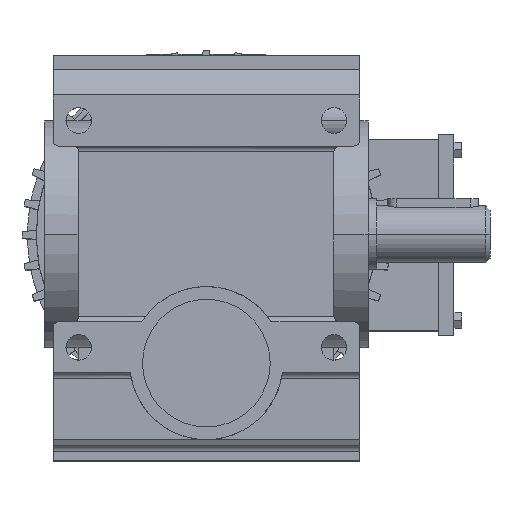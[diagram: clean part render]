
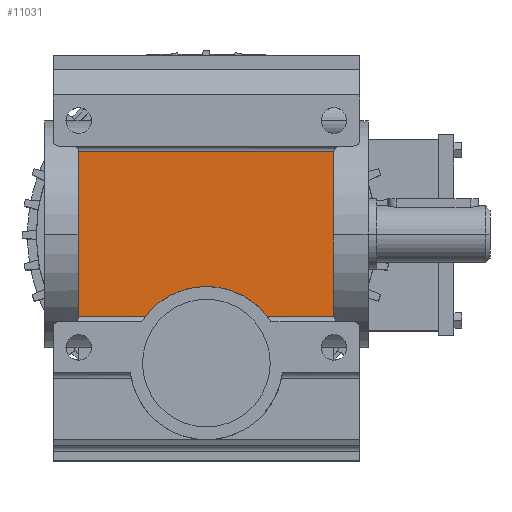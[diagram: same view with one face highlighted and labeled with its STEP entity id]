
A CAD part, top view. The second image highlights one B-rep face of the part: STEP entity #11031.
In plain terms, the highlighted planar face has unit normal (0, 0, 1).
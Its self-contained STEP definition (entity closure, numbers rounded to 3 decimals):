
#5587 = CYLINDRICAL_SURFACE('',#5588,27.);
#5588 = AXIS2_PLACEMENT_3D('',#5589,#5590,#5591);
#5589 = CARTESIAN_POINT('',(0.,-45.531,
    211.868));
#5590 = DIRECTION('',(0.,0.,-1.));
#5591 = DIRECTION('',(-1.,0.,0.));
#5976 = PLANE('',#5977);
#5977 = AXIS2_PLACEMENT_3D('',#5978,#5979,#5980);
#5978 = CARTESIAN_POINT('',(45.,29.,-3.));
#5979 = DIRECTION('',(1.,0.,0.));
#5980 = DIRECTION('',(0.,1.,0.));
#7672 = PLANE('',#7673);
#7673 = AXIS2_PLACEMENT_3D('',#7674,#7675,#7676);
#7674 = CARTESIAN_POINT('',(-45.,29.,-3.));
#7675 = DIRECTION('',(-1.,0.,0.));
#7676 = DIRECTION('',(0.,-1.,0.));
#8235 = CYLINDRICAL_SURFACE('',#8236,2.);
#8236 = AXIS2_PLACEMENT_3D('',#8237,#8238,#8239);
#8237 = CARTESIAN_POINT('',(54.,-29.,132.5));
#8238 = DIRECTION('',(-1.,0.,0.));
#8239 = DIRECTION('',(0.,0.,1.));
#8364 = CYLINDRICAL_SURFACE('',#8365,2.);
#8365 = AXIS2_PLACEMENT_3D('',#8366,#8367,#8368);
#8366 = CARTESIAN_POINT('',(54.,-29.,132.5));
#8367 = DIRECTION('',(-1.,0.,0.));
#8368 = DIRECTION('',(0.,0.,1.));
#8379 = VERTEX_POINT('',#8380);
#8380 = CARTESIAN_POINT('',(-21.347,-29.,130.5));
#8506 = VERTEX_POINT('',#8507);
#8507 = CARTESIAN_POINT('',(21.347,-29.,130.5));
#8629 = EDGE_CURVE('',#8506,#8379,#8630,.T.);
#8630 = SURFACE_CURVE('',#8631,(#8636,#8642),.PCURVE_S1.);
#8631 = CIRCLE('',#8632,27.);
#8632 = AXIS2_PLACEMENT_3D('',#8633,#8634,#8635);
#8633 = CARTESIAN_POINT('',(0.,-45.531,130.5));
#8634 = DIRECTION('',(0.,0.,1.));
#8635 = DIRECTION('',(0.,1.,0.));
#8636 = PCURVE('',#5587,#8637);
#8637 = DEFINITIONAL_REPRESENTATION('',(#8638),#8641);
#8638 = B_SPLINE_CURVE_WITH_KNOTS('',1,(#8639,#8640),.UNSPECIFIED.,.F.,
  .F.,(2,2),(5.371,7.195),.PIECEWISE_BEZIER_KNOTS.);
#8639 = CARTESIAN_POINT('',(2.483,81.368));
#8640 = CARTESIAN_POINT('',(0.659,81.368));
#8641 = ( GEOMETRIC_REPRESENTATION_CONTEXT(2) 
PARAMETRIC_REPRESENTATION_CONTEXT() REPRESENTATION_CONTEXT('2D SPACE',''
  ) );
#8642 = PCURVE('',#8643,#8648);
#8643 = PLANE('',#8644);
#8644 = AXIS2_PLACEMENT_3D('',#8645,#8646,#8647);
#8645 = CARTESIAN_POINT('',(54.,29.,130.5));
#8646 = DIRECTION('',(0.,0.,-1.));
#8647 = DIRECTION('',(0.,1.,0.));
#8648 = DEFINITIONAL_REPRESENTATION('',(#8649),#8657);
#8649 = ( BOUNDED_CURVE() B_SPLINE_CURVE(2,(#8650,#8651,#8652,#8653,
#8654,#8655,#8656),.UNSPECIFIED.,.T.,.F.) B_SPLINE_CURVE_WITH_KNOTS((1,2
    ,2,2,2,1),(-2.094,0.,2.094,4.189,
6.283,8.378),.UNSPECIFIED.) CURVE() 
GEOMETRIC_REPRESENTATION_ITEM() RATIONAL_B_SPLINE_CURVE((1.,0.5,1.,0.5,
1.,0.5,1.)) REPRESENTATION_ITEM('') );
#8650 = CARTESIAN_POINT('',(-47.531,-54.));
#8651 = CARTESIAN_POINT('',(-47.531,-100.765));
#8652 = CARTESIAN_POINT('',(-88.031,-77.383));
#8653 = CARTESIAN_POINT('',(-128.531,-54.));
#8654 = CARTESIAN_POINT('',(-88.031,-30.617));
#8655 = CARTESIAN_POINT('',(-47.531,-7.235));
#8656 = CARTESIAN_POINT('',(-47.531,-54.));
#8657 = ( GEOMETRIC_REPRESENTATION_CONTEXT(2) 
PARAMETRIC_REPRESENTATION_CONTEXT() REPRESENTATION_CONTEXT('2D SPACE',''
  ) );
#8701 = CYLINDRICAL_SURFACE('',#8702,2.);
#8702 = AXIS2_PLACEMENT_3D('',#8703,#8704,#8705);
#8703 = CARTESIAN_POINT('',(54.,29.,132.5));
#8704 = DIRECTION('',(-1.,0.,0.));
#8705 = DIRECTION('',(0.,0.,1.));
#8880 = VERTEX_POINT('',#8881);
#8881 = CARTESIAN_POINT('',(45.,-29.,130.5));
#9488 = VERTEX_POINT('',#9489);
#9489 = CARTESIAN_POINT('',(45.,29.,130.5));
#9509 = EDGE_CURVE('',#9488,#8880,#9510,.T.);
#9510 = SURFACE_CURVE('',#9511,(#9515,#9522),.PCURVE_S1.);
#9511 = LINE('',#9512,#9513);
#9512 = CARTESIAN_POINT('',(45.,29.,130.5));
#9513 = VECTOR('',#9514,1.);
#9514 = DIRECTION('',(0.,-1.,0.));
#9515 = PCURVE('',#5976,#9516);
#9516 = DEFINITIONAL_REPRESENTATION('',(#9517),#9521);
#9517 = LINE('',#9518,#9519);
#9518 = CARTESIAN_POINT('',(0.,133.5));
#9519 = VECTOR('',#9520,1.);
#9520 = DIRECTION('',(-1.,0.));
#9521 = ( GEOMETRIC_REPRESENTATION_CONTEXT(2) 
PARAMETRIC_REPRESENTATION_CONTEXT() REPRESENTATION_CONTEXT('2D SPACE',''
  ) );
#9522 = PCURVE('',#8643,#9523);
#9523 = DEFINITIONAL_REPRESENTATION('',(#9524),#9528);
#9524 = LINE('',#9525,#9526);
#9525 = CARTESIAN_POINT('',(0.,-9.));
#9526 = VECTOR('',#9527,1.);
#9527 = DIRECTION('',(-1.,0.));
#9528 = ( GEOMETRIC_REPRESENTATION_CONTEXT(2) 
PARAMETRIC_REPRESENTATION_CONTEXT() REPRESENTATION_CONTEXT('2D SPACE',''
  ) );
#10634 = VERTEX_POINT('',#10635);
#10635 = CARTESIAN_POINT('',(-45.,29.,130.5));
#10728 = VERTEX_POINT('',#10729);
#10729 = CARTESIAN_POINT('',(-45.,-29.,130.5));
#10749 = EDGE_CURVE('',#10728,#10634,#10750,.T.);
#10750 = SURFACE_CURVE('',#10751,(#10755,#10762),.PCURVE_S1.);
#10751 = LINE('',#10752,#10753);
#10752 = CARTESIAN_POINT('',(-45.,29.,130.5));
#10753 = VECTOR('',#10754,1.);
#10754 = DIRECTION('',(0.,1.,0.));
#10755 = PCURVE('',#7672,#10756);
#10756 = DEFINITIONAL_REPRESENTATION('',(#10757),#10761);
#10757 = LINE('',#10758,#10759);
#10758 = CARTESIAN_POINT('',(0.,133.5));
#10759 = VECTOR('',#10760,1.);
#10760 = DIRECTION('',(-1.,0.));
#10761 = ( GEOMETRIC_REPRESENTATION_CONTEXT(2) 
PARAMETRIC_REPRESENTATION_CONTEXT() REPRESENTATION_CONTEXT('2D SPACE',''
  ) );
#10762 = PCURVE('',#8643,#10763);
#10763 = DEFINITIONAL_REPRESENTATION('',(#10764),#10768);
#10764 = LINE('',#10765,#10766);
#10765 = CARTESIAN_POINT('',(0.,-99.));
#10766 = VECTOR('',#10767,1.);
#10767 = DIRECTION('',(1.,0.));
#10768 = ( GEOMETRIC_REPRESENTATION_CONTEXT(2) 
PARAMETRIC_REPRESENTATION_CONTEXT() REPRESENTATION_CONTEXT('2D SPACE',''
  ) );
#10986 = EDGE_CURVE('',#8379,#10728,#10987,.T.);
#10987 = SURFACE_CURVE('',#10988,(#10992,#10998),.PCURVE_S1.);
#10988 = LINE('',#10989,#10990);
#10989 = CARTESIAN_POINT('',(54.,-29.,130.5));
#10990 = VECTOR('',#10991,1.);
#10991 = DIRECTION('',(-1.,0.,0.));
#10992 = PCURVE('',#8235,#10993);
#10993 = DEFINITIONAL_REPRESENTATION('',(#10994),#10997);
#10994 = B_SPLINE_CURVE_WITH_KNOTS('',1,(#10995,#10996),.UNSPECIFIED.,
  .F.,.F.,(2,2),(75.347,99.),.PIECEWISE_BEZIER_KNOTS.);
#10995 = CARTESIAN_POINT('',(3.142,75.347));
#10996 = CARTESIAN_POINT('',(3.142,99.));
#10997 = ( GEOMETRIC_REPRESENTATION_CONTEXT(2) 
PARAMETRIC_REPRESENTATION_CONTEXT() REPRESENTATION_CONTEXT('2D SPACE',''
  ) );
#10998 = PCURVE('',#8643,#10999);
#10999 = DEFINITIONAL_REPRESENTATION('',(#11000),#11004);
#11000 = LINE('',#11001,#11002);
#11001 = CARTESIAN_POINT('',(-58.,0.));
#11002 = VECTOR('',#11003,1.);
#11003 = DIRECTION('',(0.,-1.));
#11004 = ( GEOMETRIC_REPRESENTATION_CONTEXT(2) 
PARAMETRIC_REPRESENTATION_CONTEXT() REPRESENTATION_CONTEXT('2D SPACE',''
  ) );
#11010 = EDGE_CURVE('',#8880,#8506,#11011,.T.);
#11011 = SURFACE_CURVE('',#11012,(#11016,#11022),.PCURVE_S1.);
#11012 = LINE('',#11013,#11014);
#11013 = CARTESIAN_POINT('',(54.,-29.,130.5));
#11014 = VECTOR('',#11015,1.);
#11015 = DIRECTION('',(-1.,0.,0.));
#11016 = PCURVE('',#8364,#11017);
#11017 = DEFINITIONAL_REPRESENTATION('',(#11018),#11021);
#11018 = B_SPLINE_CURVE_WITH_KNOTS('',1,(#11019,#11020),.UNSPECIFIED.,
  .F.,.F.,(2,2),(9.,32.653),.PIECEWISE_BEZIER_KNOTS.);
#11019 = CARTESIAN_POINT('',(3.142,9.));
#11020 = CARTESIAN_POINT('',(3.142,32.653));
#11021 = ( GEOMETRIC_REPRESENTATION_CONTEXT(2) 
PARAMETRIC_REPRESENTATION_CONTEXT() REPRESENTATION_CONTEXT('2D SPACE',''
  ) );
#11022 = PCURVE('',#8643,#11023);
#11023 = DEFINITIONAL_REPRESENTATION('',(#11024),#11028);
#11024 = LINE('',#11025,#11026);
#11025 = CARTESIAN_POINT('',(-58.,0.));
#11026 = VECTOR('',#11027,1.);
#11027 = DIRECTION('',(0.,-1.));
#11028 = ( GEOMETRIC_REPRESENTATION_CONTEXT(2) 
PARAMETRIC_REPRESENTATION_CONTEXT() REPRESENTATION_CONTEXT('2D SPACE',''
  ) );
#11031 = ADVANCED_FACE('',(#11032),#8643,.F.);
#11032 = FACE_BOUND('',#11033,.T.);
#11033 = EDGE_LOOP('',(#11034,#11035,#11036,#11037,#11057,#11058));
#11034 = ORIENTED_EDGE('',*,*,#8629,.F.);
#11035 = ORIENTED_EDGE('',*,*,#11010,.F.);
#11036 = ORIENTED_EDGE('',*,*,#9509,.F.);
#11037 = ORIENTED_EDGE('',*,*,#11038,.T.);
#11038 = EDGE_CURVE('',#9488,#10634,#11039,.T.);
#11039 = SURFACE_CURVE('',#11040,(#11044,#11051),.PCURVE_S1.);
#11040 = LINE('',#11041,#11042);
#11041 = CARTESIAN_POINT('',(54.,29.,130.5));
#11042 = VECTOR('',#11043,1.);
#11043 = DIRECTION('',(-1.,0.,0.));
#11044 = PCURVE('',#8643,#11045);
#11045 = DEFINITIONAL_REPRESENTATION('',(#11046),#11050);
#11046 = LINE('',#11047,#11048);
#11047 = CARTESIAN_POINT('',(0.,0.));
#11048 = VECTOR('',#11049,1.);
#11049 = DIRECTION('',(0.,-1.));
#11050 = ( GEOMETRIC_REPRESENTATION_CONTEXT(2) 
PARAMETRIC_REPRESENTATION_CONTEXT() REPRESENTATION_CONTEXT('2D SPACE',''
  ) );
#11051 = PCURVE('',#8701,#11052);
#11052 = DEFINITIONAL_REPRESENTATION('',(#11053),#11056);
#11053 = B_SPLINE_CURVE_WITH_KNOTS('',1,(#11054,#11055),.UNSPECIFIED.,
  .F.,.F.,(2,2),(9.,99.),.PIECEWISE_BEZIER_KNOTS.);
#11054 = CARTESIAN_POINT('',(3.142,9.));
#11055 = CARTESIAN_POINT('',(3.142,99.));
#11056 = ( GEOMETRIC_REPRESENTATION_CONTEXT(2) 
PARAMETRIC_REPRESENTATION_CONTEXT() REPRESENTATION_CONTEXT('2D SPACE',''
  ) );
#11057 = ORIENTED_EDGE('',*,*,#10749,.F.);
#11058 = ORIENTED_EDGE('',*,*,#10986,.F.);
